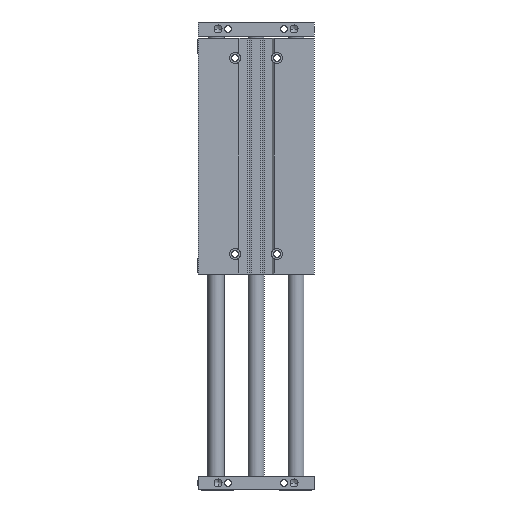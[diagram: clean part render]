
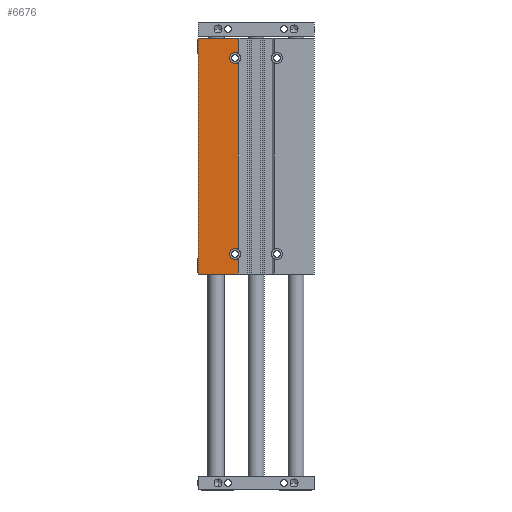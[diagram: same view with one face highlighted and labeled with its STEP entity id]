
A CAD part, front view. The second image highlights one B-rep face of the part: STEP entity #6676.
In plain terms, the highlighted planar face has unit normal (0, -1, 0).
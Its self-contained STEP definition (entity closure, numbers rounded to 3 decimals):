
#253 = EDGE_CURVE ( 'NONE', #4812, #4827, #931, .T. ) ;
#255 = EDGE_CURVE ( 'NONE', #4916, #4812, #933, .T. ) ;
#258 = EDGE_CURVE ( 'NONE', #4726, #4881, #936, .T. ) ;
#262 = EDGE_CURVE ( 'NONE', #4748, #4739, #942, .T. ) ;
#265 = EDGE_CURVE ( 'NONE', #4827, #4798, #945, .T. ) ;
#271 = EDGE_CURVE ( 'NONE', #4851, #4726, #955, .T. ) ;
#272 = EDGE_CURVE ( 'NONE', #4739, #4779, #957, .T. ) ;
#275 = EDGE_CURVE ( 'NONE', #4851, #4778, #963, .T. ) ;
#276 = EDGE_CURVE ( 'NONE', #4778, #4935, #965, .T. ) ;
#277 = EDGE_CURVE ( 'NONE', #4779, #4935, #967, .T. ) ;
#397 = EDGE_CURVE ( 'NONE', #4881, #4916, #4317, .T. ) ;
#402 = EDGE_CURVE ( 'NONE', #4798, #4748, #4332, .T. ) ;
#931 = LINE ( 'NONE', #1986, #932 ) ;
#932 = VECTOR ( 'NONE', #1985, 1000. ) ;
#933 = CIRCLE ( 'NONE', #2364, 5.75 ) ;
#936 = CIRCLE ( 'NONE', #2366, 5.75 ) ;
#942 = CIRCLE ( 'NONE', #2367, 5.75 ) ;
#945 = CIRCLE ( 'NONE', #2369, 5.75 ) ;
#955 = LINE ( 'NONE', #1924, #956 ) ;
#956 = VECTOR ( 'NONE', #1923, 1000. ) ;
#957 = LINE ( 'NONE', #1918, #958 ) ;
#958 = VECTOR ( 'NONE', #1917, 1000. ) ;
#963 = LINE ( 'NONE', #1908, #964 ) ;
#964 = VECTOR ( 'NONE', #1906, 1000. ) ;
#965 = LINE ( 'NONE', #1904, #966 ) ;
#966 = VECTOR ( 'NONE', #1903, 1000. ) ;
#967 = LINE ( 'NONE', #1899, #968 ) ;
#968 = VECTOR ( 'NONE', #1898, 1000. ) ;
#1360 = FACE_OUTER_BOUND ( 'NONE', #7021, .T. ) ;
#1833 = DIRECTION ( 'NONE',  ( 0., 0., 1. ) ) ;
#1834 = DIRECTION ( 'NONE',  ( 0., -1., 0. ) ) ;
#1835 = CARTESIAN_POINT ( 'NONE',  ( -21., -24.4, -185.5 ) ) ;
#1848 = DIRECTION ( 'NONE',  ( 0., 0., 1. ) ) ;
#1849 = DIRECTION ( 'NONE',  ( 0., -1., 0. ) ) ;
#1850 = CARTESIAN_POINT ( 'NONE',  ( -21., -24.4, 10.5 ) ) ;
#1898 = DIRECTION ( 'NONE',  ( -1., 0., 0. ) ) ;
#1899 = CARTESIAN_POINT ( 'NONE',  ( 0.114, -24.4, -205.5 ) ) ;
#1903 = DIRECTION ( 'NONE',  ( 0., 0., -1. ) ) ;
#1904 = CARTESIAN_POINT ( 'NONE',  ( -58., -24.4, 30.5 ) ) ;
#1906 = DIRECTION ( 'NONE',  ( -1., 0., 0. ) ) ;
#1908 = CARTESIAN_POINT ( 'NONE',  ( 0.064, -24.4, 30.5 ) ) ;
#1917 = DIRECTION ( 'NONE',  ( 0., 0., -1. ) ) ;
#1918 = CARTESIAN_POINT ( 'NONE',  ( -18., -24.4, 30.5 ) ) ;
#1923 = DIRECTION ( 'NONE',  ( 0., 0., -1. ) ) ;
#1924 = CARTESIAN_POINT ( 'NONE',  ( -18., -24.4, 30.5 ) ) ;
#1938 = DIRECTION ( 'NONE',  ( 0., 0., 1. ) ) ;
#1939 = DIRECTION ( 'NONE',  ( 0., -1., 0. ) ) ;
#1941 = CARTESIAN_POINT ( 'NONE',  ( -21., -24.4, -185.5 ) ) ;
#1953 = DIRECTION ( 'NONE',  ( 0., 0., 1. ) ) ;
#1954 = DIRECTION ( 'NONE',  ( 0., -1., 0. ) ) ;
#1955 = CARTESIAN_POINT ( 'NONE',  ( -21., -24.4, -185.5 ) ) ;
#1963 = DIRECTION ( 'NONE',  ( 0., 0., 1. ) ) ;
#1964 = DIRECTION ( 'NONE',  ( 0., -1., 0. ) ) ;
#1965 = CARTESIAN_POINT ( 'NONE',  ( -21., -24.4, 10.5 ) ) ;
#1977 = DIRECTION ( 'NONE',  ( 0., 0., 1. ) ) ;
#1978 = DIRECTION ( 'NONE',  ( 0., -1., 0. ) ) ;
#1980 = CARTESIAN_POINT ( 'NONE',  ( -21., -24.4, 10.5 ) ) ;
#1985 = DIRECTION ( 'NONE',  ( 0., 0., -1. ) ) ;
#1986 = CARTESIAN_POINT ( 'NONE',  ( -18., -24.4, 30.5 ) ) ;
#2364 = AXIS2_PLACEMENT_3D ( 'NONE', #1980, #1978, #1977 ) ;
#2366 = AXIS2_PLACEMENT_3D ( 'NONE', #1965, #1964, #1963 ) ;
#2367 = AXIS2_PLACEMENT_3D ( 'NONE', #1955, #1954, #1953 ) ;
#2369 = AXIS2_PLACEMENT_3D ( 'NONE', #1941, #1939, #1938 ) ;
#3756 = ORIENTED_EDGE ( 'NONE', *, *, #402, .F. ) ;
#3757 = ORIENTED_EDGE ( 'NONE', *, *, #262, .F. ) ;
#3758 = ORIENTED_EDGE ( 'NONE', *, *, #272, .F. ) ;
#3759 = ORIENTED_EDGE ( 'NONE', *, *, #277, .F. ) ;
#3760 = ORIENTED_EDGE ( 'NONE', *, *, #276, .T. ) ;
#3761 = ORIENTED_EDGE ( 'NONE', *, *, #275, .T. ) ;
#3762 = ORIENTED_EDGE ( 'NONE', *, *, #271, .F. ) ;
#4317 = CIRCLE ( 'NONE', #6070, 5.75 ) ;
#4332 = CIRCLE ( 'NONE', #6073, 5.75 ) ;
#4726 = VERTEX_POINT ( 'NONE', #7228 ) ;
#4739 = VERTEX_POINT ( 'NONE', #7212 ) ;
#4748 = VERTEX_POINT ( 'NONE', #7201 ) ;
#4778 = VERTEX_POINT ( 'NONE', #7163 ) ;
#4779 = VERTEX_POINT ( 'NONE', #7162 ) ;
#4798 = VERTEX_POINT ( 'NONE', #7139 ) ;
#4812 = VERTEX_POINT ( 'NONE', #7122 ) ;
#4827 = VERTEX_POINT ( 'NONE', #7103 ) ;
#4851 = VERTEX_POINT ( 'NONE', #5887 ) ;
#4881 = VERTEX_POINT ( 'NONE', #5797 ) ;
#4916 = VERTEX_POINT ( 'NONE', #5701 ) ;
#4935 = VERTEX_POINT ( 'NONE', #5645 ) ;
#5078 = AXIS2_PLACEMENT_3D ( 'NONE', #5449, #5448, #5447 ) ;
#5447 = DIRECTION ( 'NONE',  ( 0., 0., -1. ) ) ;
#5448 = DIRECTION ( 'NONE',  ( 0., -1., 0. ) ) ;
#5449 = CARTESIAN_POINT ( 'NONE',  ( -58., -24.4, 30.5 ) ) ;
#5451 = PLANE ( 'NONE',  #5078 ) ;
#5645 = CARTESIAN_POINT ( 'NONE',  ( -58., -24.4, -205.5 ) ) ;
#5701 = CARTESIAN_POINT ( 'NONE',  ( -21., -24.4, 4.75 ) ) ;
#5797 = CARTESIAN_POINT ( 'NONE',  ( -21., -24.4, 16.25 ) ) ;
#5887 = CARTESIAN_POINT ( 'NONE',  ( -18., -24.4, 30.5 ) ) ;
#6070 = AXIS2_PLACEMENT_3D ( 'NONE', #1850, #1849, #1848 ) ;
#6073 = AXIS2_PLACEMENT_3D ( 'NONE', #1835, #1834, #1833 ) ;
#6676 = ADVANCED_FACE ( 'NONE', ( #1360 ), #5451, .T. ) ;
#6778 = ORIENTED_EDGE ( 'NONE', *, *, #265, .F. ) ;
#6779 = ORIENTED_EDGE ( 'NONE', *, *, #253, .F. ) ;
#6780 = ORIENTED_EDGE ( 'NONE', *, *, #255, .F. ) ;
#6781 = ORIENTED_EDGE ( 'NONE', *, *, #397, .F. ) ;
#6782 = ORIENTED_EDGE ( 'NONE', *, *, #258, .F. ) ;
#7021 = EDGE_LOOP ( 'NONE', ( #6778, #6779, #6780, #6781, #6782, #3762, #3761, #3760, #3759, #3758, #3757, #3756 ) ) ;
#7103 = CARTESIAN_POINT ( 'NONE',  ( -18., -24.4, -180.595 ) ) ;
#7122 = CARTESIAN_POINT ( 'NONE',  ( -18., -24.4, 5.595 ) ) ;
#7139 = CARTESIAN_POINT ( 'NONE',  ( -21., -24.4, -179.75 ) ) ;
#7162 = CARTESIAN_POINT ( 'NONE',  ( -18., -24.4, -205.5 ) ) ;
#7163 = CARTESIAN_POINT ( 'NONE',  ( -58., -24.4, 30.5 ) ) ;
#7201 = CARTESIAN_POINT ( 'NONE',  ( -21., -24.4, -191.25 ) ) ;
#7212 = CARTESIAN_POINT ( 'NONE',  ( -18., -24.4, -190.405 ) ) ;
#7228 = CARTESIAN_POINT ( 'NONE',  ( -18., -24.4, 15.405 ) ) ;
